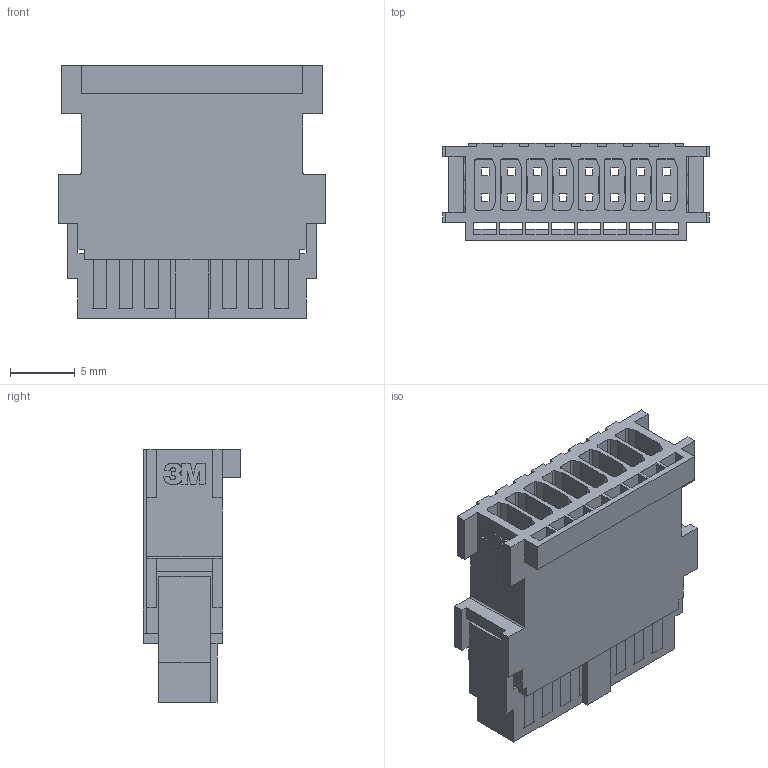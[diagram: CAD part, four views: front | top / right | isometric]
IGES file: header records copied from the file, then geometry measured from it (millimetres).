
Global section: file name: Q:\us297865\11069-2mm-sci-carrier-web-models\78-5110-5759-4.igs; native system: NX V5.0; preprocessor: UGS NX IGES V5.0; date: 20110104.132032; units: millimetre
Bounding box: 20.57 x 7.54 x 19.46 mm (x, y, z)
Surface area: 2999.2 mm2 (no closed solid volume)
Topology: 0 solids, 0 shells, 485 faces, 2965 edges, 3084 vertices
Faces by surface type: bspline 485
